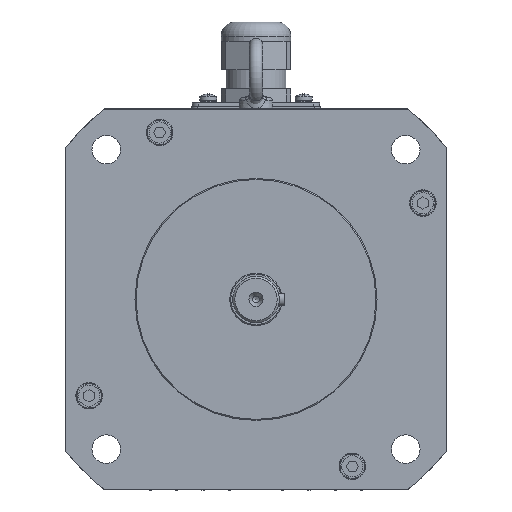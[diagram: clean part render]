
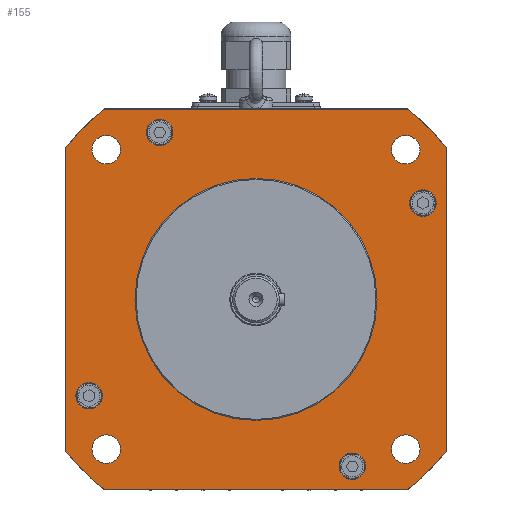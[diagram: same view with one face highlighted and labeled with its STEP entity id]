
A CAD part, front view. The second image highlights one B-rep face of the part: STEP entity #155.
In plain terms, the highlighted planar face has unit normal (0, -1, 0).
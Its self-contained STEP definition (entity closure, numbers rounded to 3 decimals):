
#155=ADVANCED_FACE('',(#2179,#2180,#2181,#2182,#2183,#2184,#2185,#2186,#2187,#2188),#2189,.F.);
#2179=FACE_BOUND('',#6364,.T.);
#2180=FACE_BOUND('',#6365,.T.);
#2181=FACE_BOUND('',#6366,.T.);
#2182=FACE_BOUND('',#6367,.T.);
#2183=FACE_BOUND('',#6368,.T.);
#2184=FACE_BOUND('',#6369,.T.);
#2185=FACE_BOUND('',#6370,.T.);
#2186=FACE_BOUND('',#6371,.T.);
#2187=FACE_BOUND('',#6372,.T.);
#2188=FACE_OUTER_BOUND('',#6373,.T.);
#2189=PLANE('',#6374);
#6364=EDGE_LOOP('',(#18344));
#6365=EDGE_LOOP('',(#18345));
#6366=EDGE_LOOP('',(#18346));
#6367=EDGE_LOOP('',(#18347));
#6368=EDGE_LOOP('',(#18348));
#6369=EDGE_LOOP('',(#18349));
#6370=EDGE_LOOP('',(#18350));
#6371=EDGE_LOOP('',(#18351));
#6372=EDGE_LOOP('',(#18352));
#6373=EDGE_LOOP('',(#18353,#18354,#18355,#18356,#18357,#18358,#18359,#18360));
#6374=AXIS2_PLACEMENT_3D('',#18361,#18362,#18363);
#18344=ORIENTED_EDGE('',*,*,#33031,.T.);
#18345=ORIENTED_EDGE('',*,*,#33032,.T.);
#18346=ORIENTED_EDGE('',*,*,#32878,.T.);
#18347=ORIENTED_EDGE('',*,*,#32872,.T.);
#18348=ORIENTED_EDGE('',*,*,#32987,.T.);
#18349=ORIENTED_EDGE('',*,*,#33029,.T.);
#18350=ORIENTED_EDGE('',*,*,#33000,.T.);
#18351=ORIENTED_EDGE('',*,*,#33033,.T.);
#18352=ORIENTED_EDGE('',*,*,#33034,.T.);
#18353=ORIENTED_EDGE('',*,*,#33035,.T.);
#18354=ORIENTED_EDGE('',*,*,#33036,.T.);
#18355=ORIENTED_EDGE('',*,*,#33037,.T.);
#18356=ORIENTED_EDGE('',*,*,#33038,.T.);
#18357=ORIENTED_EDGE('',*,*,#33039,.T.);
#18358=ORIENTED_EDGE('',*,*,#33040,.T.);
#18359=ORIENTED_EDGE('',*,*,#32877,.T.);
#18360=ORIENTED_EDGE('',*,*,#33041,.T.);
#18361=CARTESIAN_POINT('',(57.15,-21.0,0.));
#18362=DIRECTION('',(0.,1.0,0.));
#18363=DIRECTION('',(0.0,0.,-1.0));
#32872=EDGE_CURVE('',#37666,#37666,#37667,.T.);
#32877=EDGE_CURVE('',#37670,#37675,#37677,.T.);
#32878=EDGE_CURVE('',#37678,#37678,#37679,.T.);
#32987=EDGE_CURVE('',#37876,#37876,#37877,.T.);
#33000=EDGE_CURVE('',#37897,#37897,#37898,.T.);
#33029=EDGE_CURVE('',#37949,#37949,#37950,.T.);
#33031=EDGE_CURVE('',#37953,#37953,#37954,.T.);
#33032=EDGE_CURVE('',#37955,#37955,#37956,.T.);
#33033=EDGE_CURVE('',#37957,#37957,#37958,.T.);
#33034=EDGE_CURVE('',#37959,#37959,#37960,.T.);
#33035=EDGE_CURVE('',#37961,#37962,#37963,.T.);
#33036=EDGE_CURVE('',#37962,#37964,#37965,.T.);
#33037=EDGE_CURVE('',#37964,#37966,#37967,.T.);
#33038=EDGE_CURVE('',#37966,#37968,#37969,.T.);
#33039=EDGE_CURVE('',#37968,#37970,#37971,.T.);
#33040=EDGE_CURVE('',#37970,#37670,#37972,.T.);
#33041=EDGE_CURVE('',#37675,#37961,#37973,.T.);
#37666=VERTEX_POINT('',#45093);
#37667=CIRCLE('',#45094,6.75);
#37670=VERTEX_POINT('',#45097);
#37675=VERTEX_POINT('',#45103);
#37677=CIRCLE('',#45106,114.9);
#37678=VERTEX_POINT('',#45107);
#37679=CIRCLE('',#45108,6.75);
#37876=VERTEX_POINT('',#45369);
#37877=CIRCLE('',#45370,6.75);
#37897=VERTEX_POINT('',#45396);
#37898=CIRCLE('',#45397,6.25);
#37949=VERTEX_POINT('',#45473);
#37950=CIRCLE('',#45474,6.25);
#37953=VERTEX_POINT('',#45477);
#37954=CIRCLE('',#45478,57.15);
#37955=VERTEX_POINT('',#45479);
#37956=CIRCLE('',#45480,6.75);
#37957=VERTEX_POINT('',#45481);
#37958=CIRCLE('',#45482,6.25);
#37959=VERTEX_POINT('',#45483);
#37960=CIRCLE('',#45484,6.25);
#37961=VERTEX_POINT('',#45485);
#37962=VERTEX_POINT('',#45486);
#37963=CIRCLE('',#45487,114.9);
#37964=VERTEX_POINT('',#45488);
#37965=LINE('',#45489,#45490);
#37966=VERTEX_POINT('',#45491);
#37967=CIRCLE('',#45492,114.9);
#37968=VERTEX_POINT('',#45493);
#37969=LINE('',#45494,#45495);
#37970=VERTEX_POINT('',#45496);
#37971=CIRCLE('',#45497,114.9);
#37972=LINE('',#45498,#45499);
#37973=LINE('',#45500,#45501);
#45093=CARTESIAN_POINT('',(63.961,-21.0,-70.711));
#45094=AXIS2_PLACEMENT_3D('',#60354,#60355,#60356);
#45097=CARTESIAN_POINT('',(71.554,-21.0,-89.9));
#45103=CARTESIAN_POINT('',(89.9,-21.0,-71.554));
#45106=AXIS2_PLACEMENT_3D('',#60365,#60366,#60367);
#45107=CARTESIAN_POINT('',(-77.461,-21.0,-70.711));
#45108=AXIS2_PLACEMENT_3D('',#60368,#60369,#60370);
#45369=CARTESIAN_POINT('',(63.961,-21.0,70.711));
#45370=AXIS2_PLACEMENT_3D('',#60567,#60568,#60569);
#45396=CARTESIAN_POINT('',(45.5,-21.0,-72.558));
#45397=AXIS2_PLACEMENT_3D('',#60594,#60595,#60596);
#45473=CARTESIAN_POINT('',(-72.558,-21.0,-45.5));
#45474=AXIS2_PLACEMENT_3D('',#60631,#60632,#60633);
#45477=CARTESIAN_POINT('',(57.15,-21.0,0.));
#45478=AXIS2_PLACEMENT_3D('',#60637,#60638,#60639);
#45479=CARTESIAN_POINT('',(-77.461,-21.0,70.711));
#45480=AXIS2_PLACEMENT_3D('',#60640,#60641,#60642);
#45481=CARTESIAN_POINT('',(72.558,-21.0,45.5));
#45482=AXIS2_PLACEMENT_3D('',#60643,#60644,#60645);
#45483=CARTESIAN_POINT('',(-45.5,-21.0,72.558));
#45484=AXIS2_PLACEMENT_3D('',#60646,#60647,#60648);
#45485=CARTESIAN_POINT('',(89.9,-21.0,71.554));
#45486=CARTESIAN_POINT('',(71.554,-21.0,89.9));
#45487=AXIS2_PLACEMENT_3D('',#60649,#60650,#60651);
#45488=CARTESIAN_POINT('',(-71.554,-21.0,89.9));
#45489=CARTESIAN_POINT('',(-71.589,-21.0,89.9));
#45490=VECTOR('',#60652,1.0);
#45491=CARTESIAN_POINT('',(-89.9,-21.0,71.554));
#45492=AXIS2_PLACEMENT_3D('',#60653,#60654,#60655);
#45493=CARTESIAN_POINT('',(-89.9,-21.0,-71.554));
#45494=CARTESIAN_POINT('',(-89.9,-21.0,-71.589));
#45495=VECTOR('',#60656,1.0);
#45496=CARTESIAN_POINT('',(-71.554,-21.0,-89.9));
#45497=AXIS2_PLACEMENT_3D('',#60657,#60658,#60659);
#45498=CARTESIAN_POINT('',(71.589,-21.0,-89.9));
#45499=VECTOR('',#60660,1.0);
#45500=CARTESIAN_POINT('',(89.9,-21.0,71.589));
#45501=VECTOR('',#60661,1.0);
#60354=CARTESIAN_POINT('',(70.711,-21.0,-70.711));
#60355=DIRECTION('',(0.,1.0,0.));
#60356=DIRECTION('',(-1.0,0.,0.));
#60365=CARTESIAN_POINT('',(0.,-21.0,0.));
#60366=DIRECTION('',(0.,-1.0,0.));
#60367=DIRECTION('',(-1.0,0.,0.));
#60368=CARTESIAN_POINT('',(-70.711,-21.0,-70.711));
#60369=DIRECTION('',(0.,1.0,0.));
#60370=DIRECTION('',(-1.0,0.,0.));
#60567=CARTESIAN_POINT('',(70.711,-21.0,70.711));
#60568=DIRECTION('',(0.,1.0,0.));
#60569=DIRECTION('',(-1.0,0.,0.));
#60594=CARTESIAN_POINT('',(45.5,-21.0,-78.808));
#60595=DIRECTION('',(0.,1.0,0.));
#60596=DIRECTION('',(0.,0.,1.0));
#60631=CARTESIAN_POINT('',(-78.808,-21.0,-45.5));
#60632=DIRECTION('',(0.,1.0,0.));
#60633=DIRECTION('',(1.0,0.,0.));
#60637=CARTESIAN_POINT('',(0.,-21.0,0.));
#60638=DIRECTION('',(0.,1.0,0.));
#60639=DIRECTION('',(1.0,0.,0.));
#60640=CARTESIAN_POINT('',(-70.711,-21.0,70.711));
#60641=DIRECTION('',(0.,1.0,0.));
#60642=DIRECTION('',(-1.0,0.,0.));
#60643=CARTESIAN_POINT('',(78.808,-21.0,45.5));
#60644=DIRECTION('',(0.,1.0,0.));
#60645=DIRECTION('',(-1.0,0.,0.));
#60646=CARTESIAN_POINT('',(-45.5,-21.0,78.808));
#60647=DIRECTION('',(0.,1.0,0.));
#60648=DIRECTION('',(0.,0.,-1.0));
#60649=CARTESIAN_POINT('',(0.,-21.0,0.));
#60650=DIRECTION('',(0.,-1.0,0.));
#60651=DIRECTION('',(-1.0,0.,0.));
#60652=DIRECTION('',(-1.0,0.,0.));
#60653=CARTESIAN_POINT('',(0.,-21.0,0.));
#60654=DIRECTION('',(0.,-1.0,0.));
#60655=DIRECTION('',(-1.0,0.,0.));
#60656=DIRECTION('',(0.,0.,-1.0));
#60657=CARTESIAN_POINT('',(0.,-21.0,0.));
#60658=DIRECTION('',(0.,-1.0,0.));
#60659=DIRECTION('',(-1.0,0.,0.));
#60660=DIRECTION('',(1.0,0.,0.));
#60661=DIRECTION('',(0.,0.,1.0));
